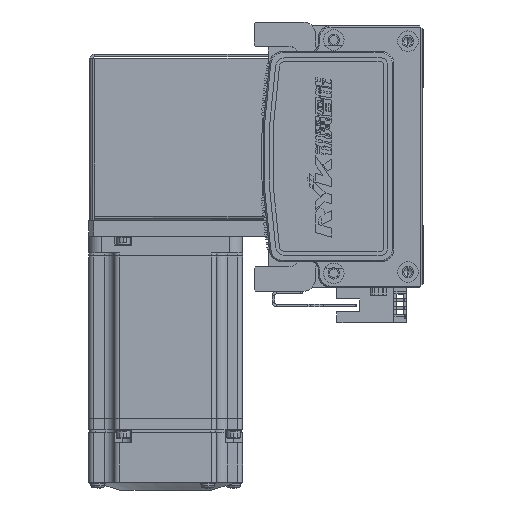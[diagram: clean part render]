
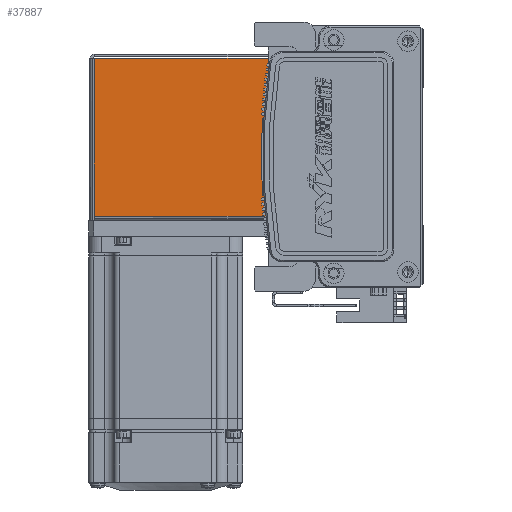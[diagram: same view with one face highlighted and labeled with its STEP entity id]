
A CAD part, left-side view. The second image highlights one B-rep face of the part: STEP entity #37887.
In plain terms, the highlighted planar face has unit normal (-1, 0, 0) as drawn and (0, 0, 1) by its records, which use the part's own axes.
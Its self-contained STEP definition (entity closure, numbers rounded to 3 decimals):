
#208 = EDGE_CURVE ( 'NONE', #51337, #8407, #52041, .T. ) ;
#1934 = DIRECTION ( 'NONE',  ( 0., 0., -1. ) ) ;
#3260 = EDGE_CURVE ( 'NONE', #51337, #45545, #64219, .T. ) ;
#3481 = CARTESIAN_POINT ( 'NONE',  ( -32.5, 0.737, 35. ) ) ;
#6219 = EDGE_LOOP ( 'NONE', ( #45155, #23505, #31384, #28179 ) ) ;
#7500 = CARTESIAN_POINT ( 'NONE',  ( 0., 0., 35. ) ) ;
#8262 = AXIS2_PLACEMENT_3D ( 'NONE', #7500, #1934, #40322 ) ;
#8407 = VERTEX_POINT ( 'NONE', #39240 ) ;
#8598 = VERTEX_POINT ( 'NONE', #9231 ) ;
#9231 = CARTESIAN_POINT ( 'NONE',  ( -30.793, 68.5, 35. ) ) ;
#11911 = DIRECTION ( 'NONE',  ( -1., 0., 0. ) ) ;
#12005 = PLANE ( 'NONE',  #8262 ) ;
#12987 = CARTESIAN_POINT ( 'NONE',  ( -30.793, 0., 35. ) ) ;
#13223 = VECTOR ( 'NONE', #58931, 1000. ) ;
#15040 = DIRECTION ( 'NONE',  ( -1., 0., 0. ) ) ;
#23505 = ORIENTED_EDGE ( 'NONE', *, *, #72830, .T. ) ;
#25477 = VECTOR ( 'NONE', #15040, 1000. ) ;
#28179 = ORIENTED_EDGE ( 'NONE', *, *, #3260, .F. ) ;
#31384 = ORIENTED_EDGE ( 'NONE', *, *, #65598, .F. ) ;
#34948 = VECTOR ( 'NONE', #56564, 1000. ) ;
#37652 = CARTESIAN_POINT ( 'NONE',  ( -30.793, 0.737, 35. ) ) ;
#37887 = ADVANCED_FACE ( 'NONE', ( #39868 ), #12005, .F. ) ;
#39240 = CARTESIAN_POINT ( 'NONE',  ( 30.763, 68.5, 35. ) ) ;
#39868 = FACE_OUTER_BOUND ( 'NONE', #6219, .T. ) ;
#40322 = DIRECTION ( 'NONE',  ( -1., 0., 0. ) ) ;
#45155 = ORIENTED_EDGE ( 'NONE', *, *, #208, .T. ) ;
#45545 = VERTEX_POINT ( 'NONE', #37652 ) ;
#46774 = CARTESIAN_POINT ( 'NONE',  ( 0., 68.5, 35. ) ) ;
#50953 = LINE ( 'NONE', #12987, #13223 ) ;
#51337 = VERTEX_POINT ( 'NONE', #69198 ) ;
#52041 = LINE ( 'NONE', #67612, #34948 ) ;
#56564 = DIRECTION ( 'NONE',  ( 0., 1., 0. ) ) ;
#58931 = DIRECTION ( 'NONE',  ( 0., 1., 0. ) ) ;
#64219 = LINE ( 'NONE', #3481, #25477 ) ;
#65191 = VECTOR ( 'NONE', #11911, 1000. ) ;
#65598 = EDGE_CURVE ( 'NONE', #45545, #8598, #50953, .T. ) ;
#67612 = CARTESIAN_POINT ( 'NONE',  ( 30.763, 0.737, 35. ) ) ;
#69198 = CARTESIAN_POINT ( 'NONE',  ( 30.763, 0.737, 35. ) ) ;
#72830 = EDGE_CURVE ( 'NONE', #8407, #8598, #74228, .T. ) ;
#74228 = LINE ( 'NONE', #46774, #65191 ) ;
